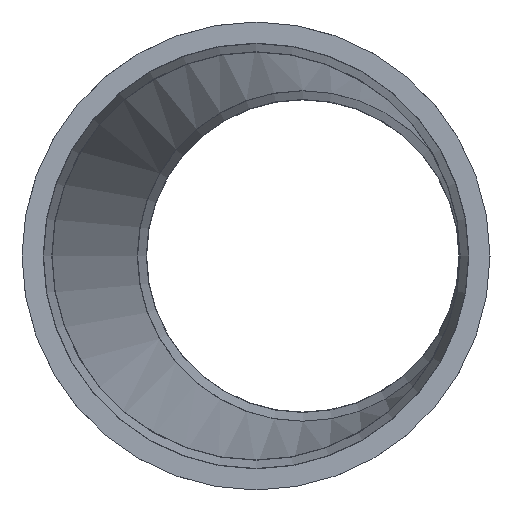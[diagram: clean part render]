
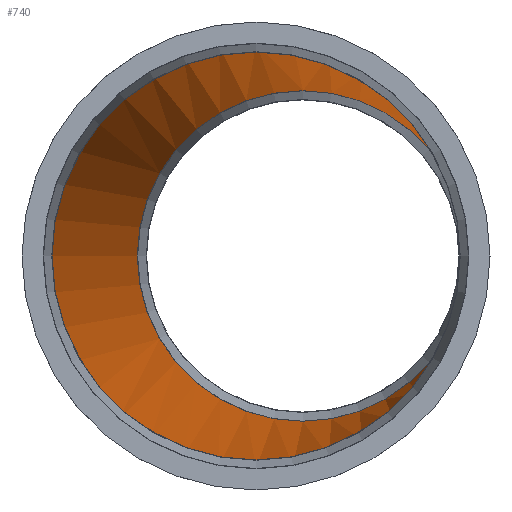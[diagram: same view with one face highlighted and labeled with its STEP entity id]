
A CAD part, left-side view. The second image highlights one B-rep face of the part: STEP entity #740.
In plain terms, the highlighted free-form (B-spline) face has degree [1, 2] with [2, 9] control points.
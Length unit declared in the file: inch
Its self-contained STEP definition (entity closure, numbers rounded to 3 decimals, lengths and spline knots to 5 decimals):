
#57=B_SPLINE_CURVE_WITH_KNOTS('',1,(#1365,#1366),.UNSPECIFIED.,.F.,.F.,
(2,2),(0.00005,6.00817),.UNSPECIFIED.);
#59=(
BOUNDED_SURFACE()
B_SPLINE_SURFACE(1,2,((#1347,#1348,#1349,#1350,#1351,#1352,#1353,#1354,
#1355),(#1356,#1357,#1358,#1359,#1360,#1361,#1362,#1363,#1364)),
 .UNSPECIFIED.,.F.,.T.,.F.)
B_SPLINE_SURFACE_WITH_KNOTS((2,2),(3,2,2,2,3),(-0.0366,6.0366),
(-3.14159,-1.5708,0.,1.5708,3.14159),
 .UNSPECIFIED.)
GEOMETRIC_REPRESENTATION_ITEM()
RATIONAL_B_SPLINE_SURFACE(((1.,0.707,1.,0.707,1.,
0.707,1.,0.707,1.),(1.,0.707,1.,0.707,
1.,0.707,1.,0.707,1.)))
REPRESENTATION_ITEM('')
SURFACE()
);
#127=FACE_OUTER_BOUND('',#159,.T.);
#159=EDGE_LOOP('',(#604,#605,#606,#607,#608,#609,#610,#611));
#209=CIRCLE('',#813,1.08);
#210=CIRCLE('',#814,1.08);
#211=CIRCLE('',#815,1.08);
#222=CIRCLE('',#829,0.84);
#223=CIRCLE('',#830,0.84);
#224=CIRCLE('',#831,0.84);
#296=VERTEX_POINT('',#1264);
#297=VERTEX_POINT('',#1265);
#298=VERTEX_POINT('',#1267);
#308=VERTEX_POINT('',#1294);
#309=VERTEX_POINT('',#1295);
#310=VERTEX_POINT('',#1297);
#387=EDGE_CURVE('',#296,#297,#209,.T.);
#388=EDGE_CURVE('',#297,#298,#210,.T.);
#390=EDGE_CURVE('',#298,#296,#211,.T.);
#402=EDGE_CURVE('',#308,#309,#222,.T.);
#403=EDGE_CURVE('',#309,#310,#223,.T.);
#405=EDGE_CURVE('',#310,#308,#224,.T.);
#429=EDGE_CURVE('',#297,#309,#57,.T.);
#604=ORIENTED_EDGE('',*,*,#387,.F.);
#605=ORIENTED_EDGE('',*,*,#390,.F.);
#606=ORIENTED_EDGE('',*,*,#388,.F.);
#607=ORIENTED_EDGE('',*,*,#429,.T.);
#608=ORIENTED_EDGE('',*,*,#402,.F.);
#609=ORIENTED_EDGE('',*,*,#405,.F.);
#610=ORIENTED_EDGE('',*,*,#403,.F.);
#611=ORIENTED_EDGE('',*,*,#429,.F.);
#740=ADVANCED_FACE('',(#127),#59,.T.);
#813=AXIS2_PLACEMENT_3D('',#1266,#992,#993);
#814=AXIS2_PLACEMENT_3D('',#1268,#994,#995);
#815=AXIS2_PLACEMENT_3D('',#1270,#997,#998);
#829=AXIS2_PLACEMENT_3D('',#1296,#1026,#1027);
#830=AXIS2_PLACEMENT_3D('',#1298,#1028,#1029);
#831=AXIS2_PLACEMENT_3D('',#1300,#1031,#1032);
#992=DIRECTION('center_axis',(1.,0.,0.));
#993=DIRECTION('ref_axis',(0.,1.,0.));
#994=DIRECTION('center_axis',(1.,0.,0.));
#995=DIRECTION('ref_axis',(0.,1.,0.));
#997=DIRECTION('center_axis',(1.,0.,0.));
#998=DIRECTION('ref_axis',(0.,1.,0.));
#1026=DIRECTION('center_axis',(-1.,0.,0.));
#1027=DIRECTION('ref_axis',(0.,-1.,0.));
#1028=DIRECTION('center_axis',(-1.,0.,0.));
#1029=DIRECTION('ref_axis',(0.,-1.,0.));
#1031=DIRECTION('center_axis',(-1.,0.,0.));
#1032=DIRECTION('ref_axis',(0.,-1.,0.));
#1264=CARTESIAN_POINT('',(1.26,1.08,0.));
#1265=CARTESIAN_POINT('',(1.26,-0.00146,1.08));
#1266=CARTESIAN_POINT('Origin',(1.26,0.,0.));
#1267=CARTESIAN_POINT('',(1.26,-1.08,0.));
#1268=CARTESIAN_POINT('Origin',(1.26,0.,0.));
#1270=CARTESIAN_POINT('Origin',(1.26,0.,0.));
#1294=CARTESIAN_POINT('',(7.74,-1.0775,0.));
#1295=CARTESIAN_POINT('',(7.74,-0.23864,0.84));
#1296=CARTESIAN_POINT('Origin',(7.74,-0.2375,0.));
#1297=CARTESIAN_POINT('',(7.74,0.6025,0.));
#1298=CARTESIAN_POINT('Origin',(7.74,-0.2375,0.));
#1300=CARTESIAN_POINT('Origin',(7.74,-0.2375,0.));
#1347=CARTESIAN_POINT('Ctrl Pts',(1.22047,-0.00002,
1.08146));
#1348=CARTESIAN_POINT('Ctrl Pts',(1.18094,-1.08003,1.08146));
#1349=CARTESIAN_POINT('Ctrl Pts',(1.18094,-1.08003,0.));
#1350=CARTESIAN_POINT('Ctrl Pts',(1.18094,-1.08003,-1.08146));
#1351=CARTESIAN_POINT('Ctrl Pts',(1.22047,-0.00002,
-1.08146));
#1352=CARTESIAN_POINT('Ctrl Pts',(1.26,1.08,-1.08146));
#1353=CARTESIAN_POINT('Ctrl Pts',(1.26,1.08,0.));
#1354=CARTESIAN_POINT('Ctrl Pts',(1.26,1.08,1.08146));
#1355=CARTESIAN_POINT('Ctrl Pts',(1.22047,-0.00002,
1.08146));
#1356=CARTESIAN_POINT('Ctrl Pts',(7.77066,-0.23976,0.83886));
#1357=CARTESIAN_POINT('Ctrl Pts',(7.74,-1.0775,0.83886));
#1358=CARTESIAN_POINT('Ctrl Pts',(7.74,-1.0775,0.));
#1359=CARTESIAN_POINT('Ctrl Pts',(7.74,-1.0775,-0.83886));
#1360=CARTESIAN_POINT('Ctrl Pts',(7.77066,-0.23976,-0.83886));
#1361=CARTESIAN_POINT('Ctrl Pts',(7.80132,0.59798,-0.83886));
#1362=CARTESIAN_POINT('Ctrl Pts',(7.80132,0.59798,0.));
#1363=CARTESIAN_POINT('Ctrl Pts',(7.80132,0.59798,0.83886));
#1364=CARTESIAN_POINT('Ctrl Pts',(7.77066,-0.23976,0.83886));
#1365=CARTESIAN_POINT('Ctrl Pts',(1.26,-0.00146,1.08));
#1366=CARTESIAN_POINT('Ctrl Pts',(7.74,-0.23864,0.84));
